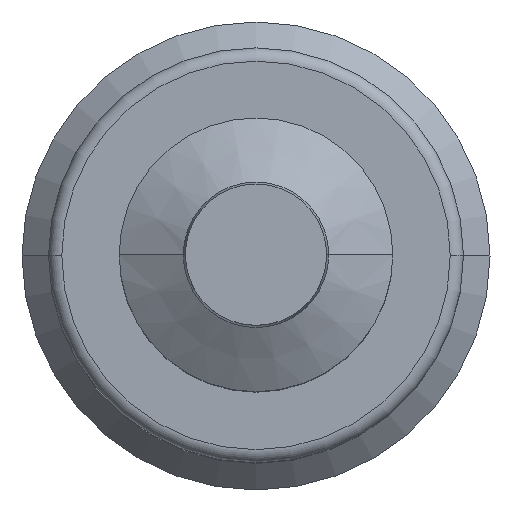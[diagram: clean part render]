
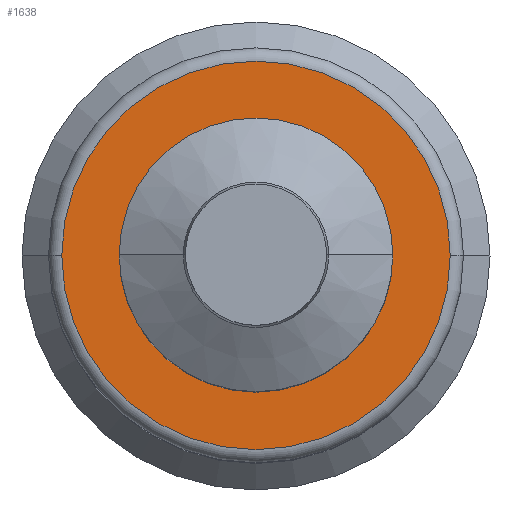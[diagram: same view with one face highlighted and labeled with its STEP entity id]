
A CAD part, top view. The second image highlights one B-rep face of the part: STEP entity #1638.
In plain terms, the highlighted planar face has unit normal (0, 0, 1).
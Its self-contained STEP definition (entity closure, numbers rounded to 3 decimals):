
#162 = PLANE ( 'NONE',  #1498 ) ;
#411 = EDGE_LOOP ( 'NONE', ( #2207, #9726 ) ) ;
#1300 = EDGE_LOOP ( 'NONE', ( #5464, #7574 ) ) ;
#1324 = EDGE_CURVE ( 'NONE', #11186, #9997, #10277, .T. ) ;
#1437 = CARTESIAN_POINT ( 'NONE',  ( -44., 0., 130. ) ) ;
#1498 = AXIS2_PLACEMENT_3D ( 'NONE', #3135, #8523, #7597 ) ;
#1638 = ADVANCED_FACE ( 'NONE', ( #1800, #6628 ), #162, .F. ) ;
#1800 = FACE_BOUND ( 'NONE', #411, .T. ) ;
#2156 = DIRECTION ( 'NONE',  ( 1., 0., 0. ) ) ;
#2207 = ORIENTED_EDGE ( 'NONE', *, *, #1324, .F. ) ;
#2226 = AXIS2_PLACEMENT_3D ( 'NONE', #3937, #6055, #9809 ) ;
#2643 = CARTESIAN_POINT ( 'NONE',  ( 0., 0., 130. ) ) ;
#3135 = CARTESIAN_POINT ( 'NONE',  ( 0., 0., 130. ) ) ;
#3689 = EDGE_CURVE ( 'NONE', #9997, #11186, #4660, .T. ) ;
#3937 = CARTESIAN_POINT ( 'NONE',  ( 0., 0., 130. ) ) ;
#4556 = DIRECTION ( 'NONE',  ( 1., 0., 0. ) ) ;
#4660 = CIRCLE ( 'NONE', #10906, 31. ) ;
#5464 = ORIENTED_EDGE ( 'NONE', *, *, #5844, .F. ) ;
#5466 = CARTESIAN_POINT ( 'NONE',  ( 0., 0., 130. ) ) ;
#5529 = VERTEX_POINT ( 'NONE', #10713 ) ;
#5742 = CIRCLE ( 'NONE', #10168, 44. ) ;
#5844 = EDGE_CURVE ( 'NONE', #5529, #11455, #11117, .T. ) ;
#6055 = DIRECTION ( 'NONE',  ( 0., 0., 1. ) ) ;
#6063 = AXIS2_PLACEMENT_3D ( 'NONE', #5466, #10972, #4556 ) ;
#6599 = CARTESIAN_POINT ( 'NONE',  ( 0., 0., 130. ) ) ;
#6628 = FACE_OUTER_BOUND ( 'NONE', #1300, .T. ) ;
#6715 = DIRECTION ( 'NONE',  ( 1., 0., 0. ) ) ;
#7445 = DIRECTION ( 'NONE',  ( 0., 0., 1. ) ) ;
#7574 = ORIENTED_EDGE ( 'NONE', *, *, #8156, .F. ) ;
#7597 = DIRECTION ( 'NONE',  ( 1., 0., 0. ) ) ;
#8156 = EDGE_CURVE ( 'NONE', #11455, #5529, #5742, .T. ) ;
#8523 = DIRECTION ( 'NONE',  ( 0., 0., -1. ) ) ;
#9121 = CARTESIAN_POINT ( 'NONE',  ( 31., 0., 130. ) ) ;
#9726 = ORIENTED_EDGE ( 'NONE', *, *, #3689, .F. ) ;
#9809 = DIRECTION ( 'NONE',  ( 1., 0., 0. ) ) ;
#9997 = VERTEX_POINT ( 'NONE', #10689 ) ;
#10168 = AXIS2_PLACEMENT_3D ( 'NONE', #6599, #11387, #2156 ) ;
#10277 = CIRCLE ( 'NONE', #2226, 31. ) ;
#10689 = CARTESIAN_POINT ( 'NONE',  ( -31., 0., 130. ) ) ;
#10713 = CARTESIAN_POINT ( 'NONE',  ( 44., 0., 130. ) ) ;
#10906 = AXIS2_PLACEMENT_3D ( 'NONE', #2643, #7445, #6715 ) ;
#10972 = DIRECTION ( 'NONE',  ( 0., 0., -1. ) ) ;
#11117 = CIRCLE ( 'NONE', #6063, 44. ) ;
#11186 = VERTEX_POINT ( 'NONE', #9121 ) ;
#11387 = DIRECTION ( 'NONE',  ( 0., 0., -1. ) ) ;
#11455 = VERTEX_POINT ( 'NONE', #1437 ) ;
